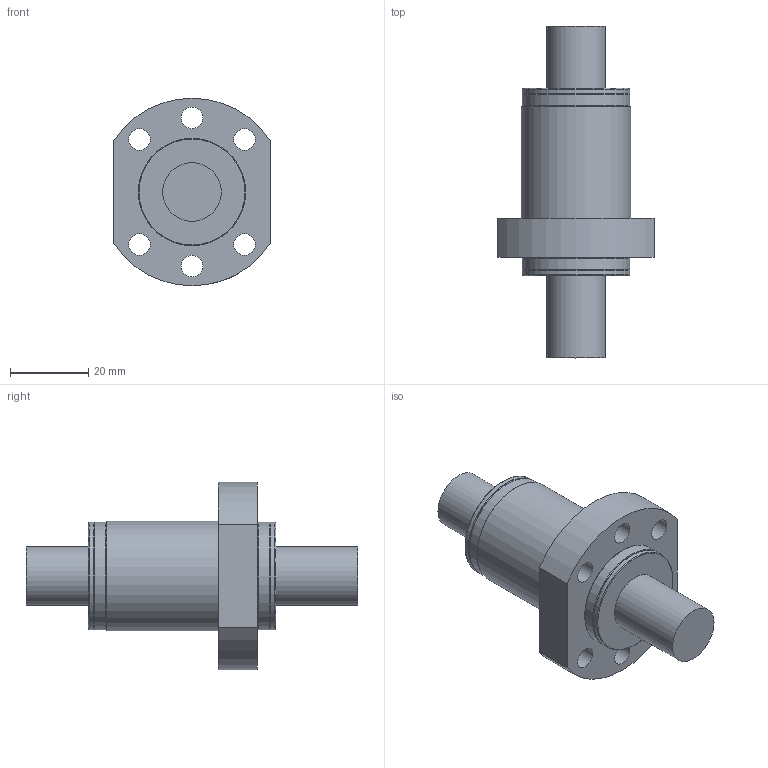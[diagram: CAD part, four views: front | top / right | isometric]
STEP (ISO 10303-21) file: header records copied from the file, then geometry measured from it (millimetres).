
FILE_DESCRIPTION(/* description */ (''),/* implementation_level */ '2;1');
FILE_NAME(/* name */ 'SFJ1610-2.81.stp',/* time_stamp */ '2023-02-20T11:46:09+08:00',/* author */ (''),/* organization */ (''),/* preprocessor_version */ 'ST-DEVELOPER v16.7',/* originating_system */ 'SIEMENS PLM Software NX 1892',/* authorisation */ '');
FILE_SCHEMA (('AUTOMOTIVE_DESIGN { 1 0 10303 214 3 1 1 1 }'));
Length unit declared in the file: millimetre
Products named in the file (1): 03161CD0525Bcv0m
Bounding box: 40 x 85 x 48 mm (x, y, z)
Surface area: 10941.6 mm2 (no closed solid volume)
Topology: 0 solids, 1 shells, 45 faces, 111 edges, 73 vertices
Faces by surface type: cylinder 23, plane 10, torus 8, bspline 3, cone 1
Full cylindrical faces by diameter (mm): 3 x1, 5 x5, 5.5 x6, 15 x2, 27.5 x4, 28 x1
Entity records: 3790 total; most frequent: CARTESIAN_POINT 2950, DIRECTION 166, ORIENTED_EDGE 124, EDGE_LOOP 83, AXIS2_PLACEMENT_3D 77, FACE_BOUND 72, EDGE_CURVE 62, VERTEX_POINT 53
